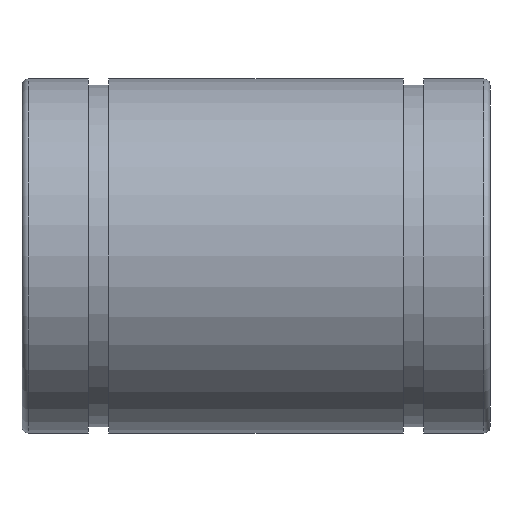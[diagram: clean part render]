
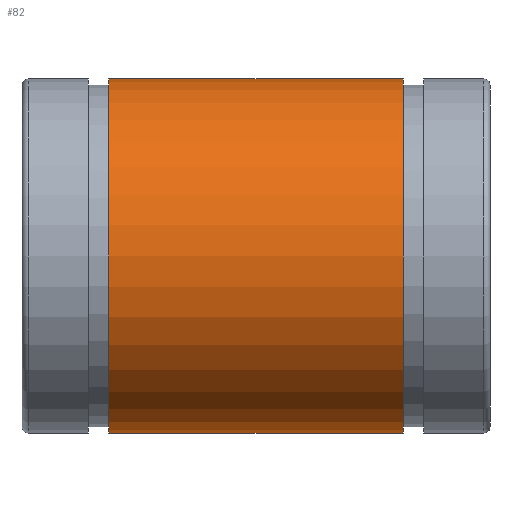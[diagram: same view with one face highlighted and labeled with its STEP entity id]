
A CAD part, front view. The second image highlights one B-rep face of the part: STEP entity #82.
In plain terms, the highlighted cylindrical face has radius 14 mm (diameter 28 mm), a full revolution.
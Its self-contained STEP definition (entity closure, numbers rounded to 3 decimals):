
#82=ADVANCED_FACE('',(#111,#112),#113,.T.);
#111=FACE_OUTER_BOUND('',#153,.T.);
#112=FACE_OUTER_BOUND('',#154,.T.);
#113=CYLINDRICAL_SURFACE('',#155,14.0);
#153=EDGE_LOOP('',(#209));
#154=EDGE_LOOP('',(#210));
#155=AXIS2_PLACEMENT_3D('',#211,#212,#213);
#209=ORIENTED_EDGE('',*,*,#253,.F.);
#210=ORIENTED_EDGE('',*,*,#246,.F.);
#211=CARTESIAN_POINT('',(0.0,0.0,0.0));
#212=DIRECTION('',(1.0,-0.0,-0.0));
#213=DIRECTION('',(0.0,1.0,0.0));
#246=EDGE_CURVE('',#262,#262,#263,.T.);
#253=EDGE_CURVE('',#276,#276,#277,.T.);
#262=VERTEX_POINT('',#290);
#263=CIRCLE('',#291,14.0);
#276=VERTEX_POINT('',#304);
#277=CIRCLE('',#305,14.0);
#290=CARTESIAN_POINT('',(11.65,14.0,0.0));
#291=AXIS2_PLACEMENT_3D('',#320,#321,#322);
#304=CARTESIAN_POINT('',(-11.65,-14.0,0.0));
#305=AXIS2_PLACEMENT_3D('',#341,#342,#343);
#320=CARTESIAN_POINT('',(11.65,0.0,0.0));
#321=DIRECTION('',(1.0,0.0,0.0));
#322=DIRECTION('',(0.0,1.0,0.0));
#341=CARTESIAN_POINT('',(-11.65,0.0,0.0));
#342=DIRECTION('',(-1.0,0.0,0.0));
#343=DIRECTION('',(0.0,-1.0,0.0));
